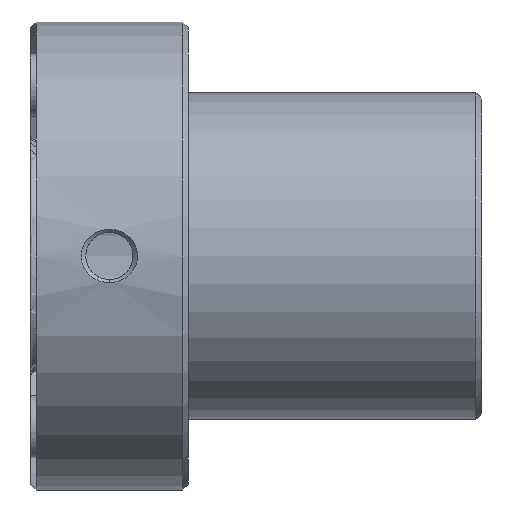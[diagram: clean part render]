
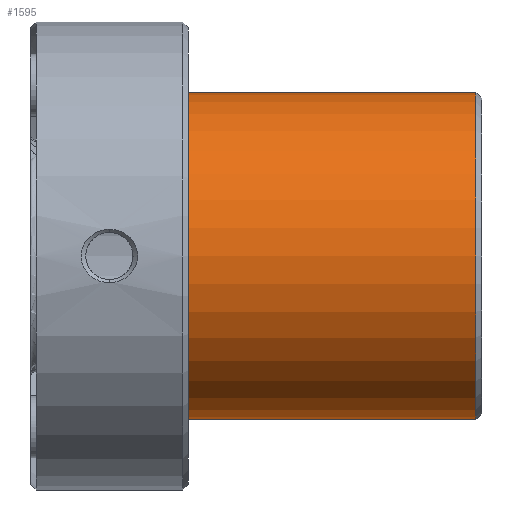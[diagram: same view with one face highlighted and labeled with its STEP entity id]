
A CAD part, front view. The second image highlights one B-rep face of the part: STEP entity #1595.
In plain terms, the highlighted cylindrical face has radius 29 mm (diameter 58 mm), a partial arc.
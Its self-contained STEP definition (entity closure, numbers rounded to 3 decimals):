
#842=CARTESIAN_POINT('Vertex',(28.,0.,-29.)) ;
#847=CARTESIAN_POINT('Axis2P3D Location',(28.,0.,0.)) ;
#851=CARTESIAN_POINT('Vertex',(28.,-29.,0.)) ;
#854=CARTESIAN_POINT('Axis2P3D Location',(28.,0.,0.)) ;
#858=CARTESIAN_POINT('Vertex',(28.,0.,29.)) ;
#1535=CARTESIAN_POINT('Line Origine',(80.,0.,29.)) ;
#1539=CARTESIAN_POINT('Vertex',(79.,0.,29.)) ;
#1553=CARTESIAN_POINT('Vertex',(79.,0.,-29.)) ;
#1556=CARTESIAN_POINT('Line Origine',(80.,0.,-29.)) ;
#1570=CARTESIAN_POINT('Axis2P3D Location',(80.,0.,0.)) ;
#1575=CARTESIAN_POINT('Axis2P3D Location',(79.,0.,0.)) ;
#1579=CARTESIAN_POINT('Vertex',(79.,-29.,0.)) ;
#1582=CARTESIAN_POINT('Axis2P3D Location',(79.,0.,0.)) ;
#848=DIRECTION('Axis2P3D Direction',(1.,0.,-0.)) ;
#855=DIRECTION('Axis2P3D Direction',(1.,0.,-0.)) ;
#1536=DIRECTION('Vector Direction',(-1.,0.,0.)) ;
#1557=DIRECTION('Vector Direction',(-1.,0.,0.)) ;
#1571=DIRECTION('Axis2P3D Direction',(-1.,-0.,-0.)) ;
#1572=DIRECTION('Axis2P3D XDirection',(0.,0.,-1.)) ;
#1576=DIRECTION('Axis2P3D Direction',(-1.,-0.,-0.)) ;
#1583=DIRECTION('Axis2P3D Direction',(-1.,-0.,-0.)) ;
#849=AXIS2_PLACEMENT_3D('Circle Axis2P3D',#847,#848,$) ;
#856=AXIS2_PLACEMENT_3D('Circle Axis2P3D',#854,#855,$) ;
#1573=AXIS2_PLACEMENT_3D('Cylinder Axis2P3D',#1570,#1571,#1572) ;
#1577=AXIS2_PLACEMENT_3D('Circle Axis2P3D',#1575,#1576,$) ;
#1584=AXIS2_PLACEMENT_3D('Circle Axis2P3D',#1582,#1583,$) ;
#1588=ORIENTED_EDGE('',*,*,#1560,.T.) ;
#1589=ORIENTED_EDGE('',*,*,#1581,.F.) ;
#1590=ORIENTED_EDGE('',*,*,#1586,.F.) ;
#1591=ORIENTED_EDGE('',*,*,#1541,.T.) ;
#1592=ORIENTED_EDGE('',*,*,#860,.T.) ;
#1593=ORIENTED_EDGE('',*,*,#853,.T.) ;
#1537=VECTOR('Line Direction',#1536,1.) ;
#1558=VECTOR('Line Direction',#1557,1.) ;
#1595=ADVANCED_FACE('346-41',(#1594),#1574,.T.) ;
#850=CIRCLE('generated circle',#849,29.) ;
#857=CIRCLE('generated circle',#856,29.) ;
#1578=CIRCLE('generated circle',#1577,29.) ;
#1585=CIRCLE('generated circle',#1584,29.) ;
#1574=CYLINDRICAL_SURFACE('generated cylinder',#1573,29.) ;
#853=EDGE_CURVE('',#852,#843,#850,.T.) ;
#860=EDGE_CURVE('',#859,#852,#857,.T.) ;
#1541=EDGE_CURVE('',#1540,#859,#1538,.T.) ;
#1560=EDGE_CURVE('',#843,#1554,#1559,.F.) ;
#1581=EDGE_CURVE('',#1580,#1554,#1578,.F.) ;
#1586=EDGE_CURVE('',#1540,#1580,#1585,.F.) ;
#1587=EDGE_LOOP('',(#1588,#1589,#1590,#1591,#1592,#1593)) ;
#1594=FACE_OUTER_BOUND('',#1587,.T.) ;
#1538=LINE('Line',#1535,#1537) ;
#1559=LINE('Line',#1556,#1558) ;
#843=VERTEX_POINT('',#842) ;
#852=VERTEX_POINT('',#851) ;
#859=VERTEX_POINT('',#858) ;
#1540=VERTEX_POINT('',#1539) ;
#1554=VERTEX_POINT('',#1553) ;
#1580=VERTEX_POINT('',#1579) ;
